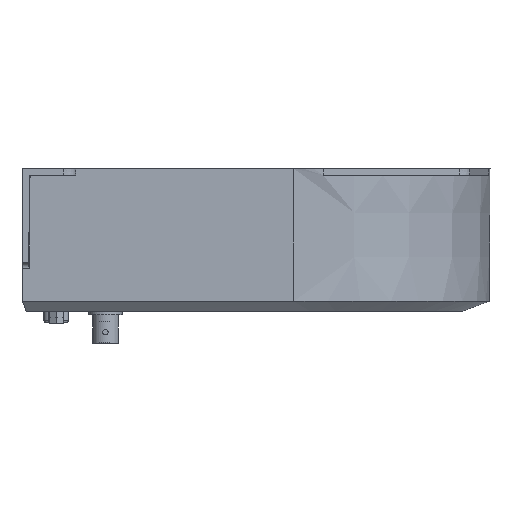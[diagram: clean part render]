
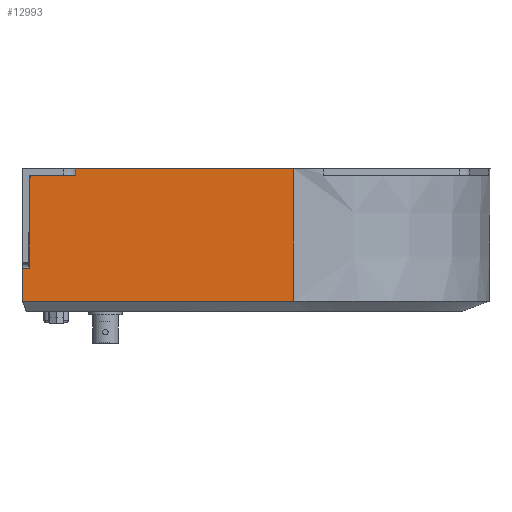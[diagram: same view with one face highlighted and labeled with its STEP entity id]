
A CAD part, left-side view. The second image highlights one B-rep face of the part: STEP entity #12993.
In plain terms, the highlighted planar face has unit normal (-1, 0, -0.009).
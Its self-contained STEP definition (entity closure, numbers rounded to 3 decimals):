
#793 = DIRECTION ( 'NONE',  ( 0.009, 0.009, -1. ) ) ;
#819 = ORIENTED_EDGE ( 'NONE', *, *, #38186, .T. ) ;
#1407 = LINE ( 'NONE', #7206, #53501 ) ;
#1424 = LINE ( 'NONE', #15942, #5480 ) ;
#1852 = LINE ( 'NONE', #12155, #34568 ) ;
#2307 = LINE ( 'NONE', #56656, #20161 ) ;
#3725 = CARTESIAN_POINT ( 'NONE',  ( -72.569, 0., -49.156 ) ) ;
#3923 = DIRECTION ( 'NONE',  ( 0.009, 0., -1. ) ) ;
#4758 = EDGE_CURVE ( 'NONE', #42003, #46958, #1424, .T. ) ;
#4789 = CARTESIAN_POINT ( 'NONE',  ( -72.677, 101., -36.783 ) ) ;
#4949 = B_SPLINE_CURVE_WITH_KNOTS ( 'NONE', 3,
 ( #57075, #43320, #62550, #38481, #28465, #52925, #3725 ),
 .UNSPECIFIED., .F., .F.,
 ( 4, 1, 1, 1, 4 ),
 ( 0., 0.025, 0.05, 0.076, 0.101 ),
 .UNSPECIFIED. ) ;
#5480 = VECTOR ( 'NONE', #793, 1000. ) ;
#6295 = DIRECTION ( 'NONE',  ( -0.008, 0.371, 0.928 ) ) ;
#7206 = CARTESIAN_POINT ( 'NONE',  ( -72.637, 103.967, -41.383 ) ) ;
#7535 = EDGE_CURVE ( 'NONE', #33851, #42003, #1852, .T. ) ;
#7987 = CARTESIAN_POINT ( 'NONE',  ( -72.569, 100.858, -49.156 ) ) ;
#8114 = FACE_OUTER_BOUND ( 'NONE', #30231, .T. ) ;
#10973 = VECTOR ( 'NONE', #47947, 1000. ) ;
#11523 = DIRECTION ( 'NONE',  ( 0., 1., 0. ) ) ;
#12155 = CARTESIAN_POINT ( 'NONE',  ( -72.976, 0., -2.498 ) ) ;
#12993 = ADVANCED_FACE ( 'NONE', ( #8114 ), #19369, .T. ) ;
#13095 = DIRECTION ( 'NONE',  ( 0.009, 0., -1. ) ) ;
#13235 = VERTEX_POINT ( 'NONE', #53358 ) ;
#15590 = VERTEX_POINT ( 'NONE', #4789 ) ;
#15665 = ORIENTED_EDGE ( 'NONE', *, *, #36517, .F. ) ;
#15942 = CARTESIAN_POINT ( 'NONE',  ( -73.007, 97.987, 1.055 ) ) ;
#17840 = CARTESIAN_POINT ( 'NONE',  ( -72.677, 101., -36.783 ) ) ;
#18401 = DIRECTION ( 'NONE',  ( -1., 0., -0.009 ) ) ;
#19369 = PLANE ( 'NONE',  #48349 ) ;
#20161 = VECTOR ( 'NONE', #32254, 1000. ) ;
#20189 = CARTESIAN_POINT ( 'NONE',  ( -73., 0., 0.2 ) ) ;
#22589 = DIRECTION ( 'NONE',  ( -0.009, -0.009, 1. ) ) ;
#23791 = CARTESIAN_POINT ( 'NONE',  ( -73., 0., 0.2 ) ) ;
#24967 = VERTEX_POINT ( 'NONE', #37801 ) ;
#26081 = VECTOR ( 'NONE', #13095, 1000. ) ;
#27414 = CARTESIAN_POINT ( 'NONE',  ( -73.006, 80.994, 0.907 ) ) ;
#28465 = CARTESIAN_POINT ( 'NONE',  ( -72.569, 26.309, -49.156 ) ) ;
#30231 = EDGE_LOOP ( 'NONE', ( #46518, #819, #58271, #54299, #37840, #15665, #45529, #31980, #35566 ) ) ;
#31043 = CARTESIAN_POINT ( 'NONE',  ( -72.976, 81.024, -2.498 ) ) ;
#31980 = ORIENTED_EDGE ( 'NONE', *, *, #59025, .F. ) ;
#32254 = DIRECTION ( 'NONE',  ( 0.009, 0., -1. ) ) ;
#33851 = VERTEX_POINT ( 'NONE', #31043 ) ;
#34568 = VECTOR ( 'NONE', #11523, 1000. ) ;
#35566 = ORIENTED_EDGE ( 'NONE', *, *, #7535, .T. ) ;
#36517 = EDGE_CURVE ( 'NONE', #60448, #13235, #37613, .T. ) ;
#37426 = EDGE_CURVE ( 'NONE', #57676, #13235, #4949, .T. ) ;
#37613 = LINE ( 'NONE', #57134, #26081 ) ;
#37801 = CARTESIAN_POINT ( 'NONE',  ( -73., 81., 0.2 ) ) ;
#37840 = ORIENTED_EDGE ( 'NONE', *, *, #37426, .T. ) ;
#38186 = EDGE_CURVE ( 'NONE', #46958, #15590, #63135, .T. ) ;
#38481 = CARTESIAN_POINT ( 'NONE',  ( -72.569, 51.572, -49.156 ) ) ;
#40690 = CARTESIAN_POINT ( 'NONE',  ( -72.677, 98.317, -36.783 ) ) ;
#42003 = VERTEX_POINT ( 'NONE', #57296 ) ;
#43320 = CARTESIAN_POINT ( 'NONE',  ( -72.569, 92.692, -49.156 ) ) ;
#45529 = ORIENTED_EDGE ( 'NONE', *, *, #63667, .T. ) ;
#46518 = ORIENTED_EDGE ( 'NONE', *, *, #4758, .T. ) ;
#46958 = VERTEX_POINT ( 'NONE', #40690 ) ;
#47435 = CARTESIAN_POINT ( 'NONE',  ( -72.572, 101., -48.8 ) ) ;
#47947 = DIRECTION ( 'NONE',  ( 0., 1., 0. ) ) ;
#48027 = CARTESIAN_POINT ( 'NONE',  ( -73., 0., 0.2 ) ) ;
#48349 = AXIS2_PLACEMENT_3D ( 'NONE', #48027, #18401, #3923 ) ;
#49491 = VERTEX_POINT ( 'NONE', #47435 ) ;
#52925 = CARTESIAN_POINT ( 'NONE',  ( -72.569, 8.941, -49.156 ) ) ;
#53358 = CARTESIAN_POINT ( 'NONE',  ( -72.569, 0., -49.156 ) ) ;
#53501 = VECTOR ( 'NONE', #6295, 1000. ) ;
#53913 = EDGE_CURVE ( 'NONE', #57676, #49491, #1407, .T. ) ;
#54299 = ORIENTED_EDGE ( 'NONE', *, *, #53913, .F. ) ;
#55096 = VECTOR ( 'NONE', #57959, 1000. ) ;
#56021 = LINE ( 'NONE', #27414, #59743 ) ;
#56656 = CARTESIAN_POINT ( 'NONE',  ( -73., 101., 0.2 ) ) ;
#57075 = CARTESIAN_POINT ( 'NONE',  ( -72.569, 100.858, -49.156 ) ) ;
#57134 = CARTESIAN_POINT ( 'NONE',  ( -73., 0., 0.2 ) ) ;
#57296 = CARTESIAN_POINT ( 'NONE',  ( -72.976, 98.018, -2.498 ) ) ;
#57676 = VERTEX_POINT ( 'NONE', #7987 ) ;
#57959 = DIRECTION ( 'NONE',  ( 0., 1., 0. ) ) ;
#58271 = ORIENTED_EDGE ( 'NONE', *, *, #63179, .T. ) ;
#59025 = EDGE_CURVE ( 'NONE', #33851, #24967, #56021, .T. ) ;
#59743 = VECTOR ( 'NONE', #22589, 1000. ) ;
#60448 = VERTEX_POINT ( 'NONE', #20189 ) ;
#62550 = CARTESIAN_POINT ( 'NONE',  ( -72.569, 76.246, -49.156 ) ) ;
#62676 = LINE ( 'NONE', #23791, #10973 ) ;
#63135 = LINE ( 'NONE', #17840, #55096 ) ;
#63179 = EDGE_CURVE ( 'NONE', #15590, #49491, #2307, .T. ) ;
#63667 = EDGE_CURVE ( 'NONE', #60448, #24967, #62676, .T. ) ;
